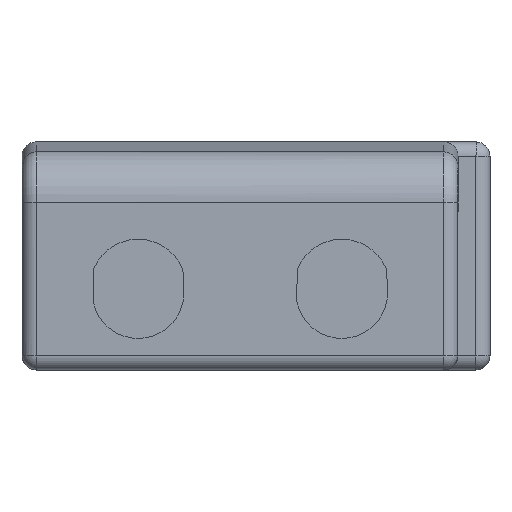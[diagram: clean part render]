
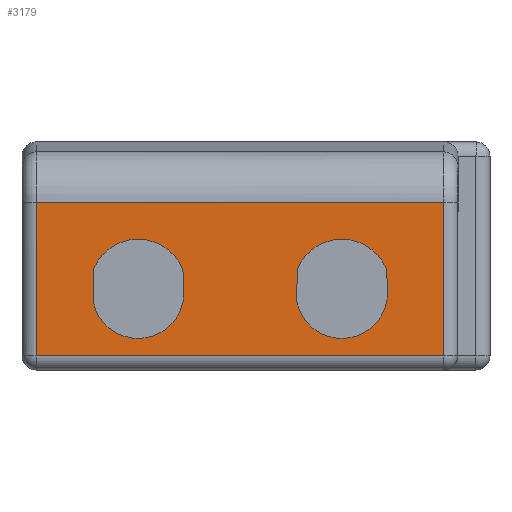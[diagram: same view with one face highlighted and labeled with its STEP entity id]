
A CAD part, left-side view. The second image highlights one B-rep face of the part: STEP entity #3179.
In plain terms, the highlighted planar face has unit normal (-1, 0, 0) as drawn and (0, 0, 1) by its records, which use the part's own axes.
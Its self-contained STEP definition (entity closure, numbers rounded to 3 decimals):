
#514=DIRECTION('',(0.005,1.,0.));
#515=VECTOR('',#514,3.173);
#516=CARTESIAN_POINT('',(14.394,0.119,45.137));
#517=LINE('',#516,#515);
#521=CARTESIAN_POINT('',(10.,2.4,45.137));
#522=DIRECTION('',(0.,0.,1.));
#523=DIRECTION('',(0.98,0.198,0.));
#524=AXIS2_PLACEMENT_3D('',#521,#522,#523);
#529=DIRECTION('',(0.045,-0.999,0.));
#530=VECTOR('',#529,2.362);
#531=CARTESIAN_POINT('',(5.501,2.479,45.137));
#532=LINE('',#531,#530);
#536=DIRECTION('',(0.005,1.,0.));
#537=VECTOR('',#536,3.173);
#538=CARTESIAN_POINT('',(-5.606,0.119,45.137));
#539=LINE('',#538,#537);
#543=CARTESIAN_POINT('',(-10.,2.4,45.137));
#544=DIRECTION('',(0.,0.,1.));
#545=DIRECTION('',(0.98,0.198,0.));
#546=AXIS2_PLACEMENT_3D('',#543,#544,#545);
#551=DIRECTION('',(0.045,-0.999,0.));
#552=VECTOR('',#551,2.362);
#553=CARTESIAN_POINT('',(-14.499,2.479,45.137));
#554=LINE('',#553,#552);
#558=DIRECTION('',(0.,-1.,0.));
#559=VECTOR('',#558,15.029);
#560=CARTESIAN_POINT('',(19.981,8.6,45.137));
#561=LINE('',#560,#559);
#565=DIRECTION('',(1.,0.,0.));
#566=VECTOR('',#565,39.962);
#567=CARTESIAN_POINT('',(-19.981,-6.428,45.137));
#568=LINE('',#567,#566);
#572=DIRECTION('',(0.,1.,0.));
#573=VECTOR('',#572,15.028);
#574=CARTESIAN_POINT('',(-19.981,-6.428,45.137));
#575=LINE('',#574,#573);
#579=DIRECTION('',(1.,0.,0.));
#580=VECTOR('',#579,39.962);
#581=CARTESIAN_POINT('',(-19.981,8.6,45.137));
#582=LINE('',#581,#580);
#586=CARTESIAN_POINT('',(10.,1.906,45.137));
#587=DIRECTION('',(0.,0.,-1.));
#588=DIRECTION('',(0.926,-0.377,0.));
#589=AXIS2_PLACEMENT_3D('',#586,#587,#588);
#652=CARTESIAN_POINT('',(-10.,1.906,45.137));
#653=DIRECTION('',(0.,0.,-1.));
#654=DIRECTION('',(0.926,-0.377,0.));
#655=AXIS2_PLACEMENT_3D('',#652,#653,#654);
#850=CARTESIAN_POINT('',(19.981,-6.429,45.137));
#872=CARTESIAN_POINT('',(-19.981,-6.428,45.137));
#2426=CARTESIAN_POINT('',(14.394,0.119,45.137));
#2427=CARTESIAN_POINT('',(14.411,3.292,45.137));
#2428=VERTEX_POINT('',#2426);
#2429=VERTEX_POINT('',#2427);
#2430=CARTESIAN_POINT('',(5.501,2.479,45.137));
#2431=VERTEX_POINT('',#2430);
#2432=CARTESIAN_POINT('',(5.606,0.119,45.137));
#2433=VERTEX_POINT('',#2432);
#2442=CARTESIAN_POINT('',(-5.606,0.119,
45.137));
#2443=CARTESIAN_POINT('',(-5.589,3.292,45.137));
#2444=VERTEX_POINT('',#2442);
#2445=VERTEX_POINT('',#2443);
#2446=CARTESIAN_POINT('',(-14.499,2.479,45.137));
#2447=VERTEX_POINT('',#2446);
#2448=CARTESIAN_POINT('',(-14.394,0.119,
45.137));
#2449=VERTEX_POINT('',#2448);
#2455=VERTEX_POINT('',#872);
#2464=VERTEX_POINT('',#850);
#2467=CARTESIAN_POINT('',(19.981,8.6,45.137));
#2468=VERTEX_POINT('',#2467);
#2469=CARTESIAN_POINT('',(-19.981,8.6,45.137));
#2470=VERTEX_POINT('',#2469);
#3145=CARTESIAN_POINT('',(-21.38,-15.,45.137));
#3146=DIRECTION('',(0.,0.,-1.));
#3147=DIRECTION('',(1.,0.,0.));
#3148=AXIS2_PLACEMENT_3D('',#3145,#3146,#3147);
#3149=PLANE('',#3148);
#3151=ORIENTED_EDGE('',*,*,#3150,.T.);
#3153=ORIENTED_EDGE('',*,*,#3152,.F.);
#3154=ORIENTED_EDGE('',*,*,#3136,.T.);
#3156=ORIENTED_EDGE('',*,*,#3155,.T.);
#3157=EDGE_LOOP('',(#3151,#3153,#3154,#3156));
#3158=FACE_OUTER_BOUND('',#3157,.F.);
#3160=ORIENTED_EDGE('',*,*,#3159,.F.);
#3162=ORIENTED_EDGE('',*,*,#3161,.T.);
#3164=ORIENTED_EDGE('',*,*,#3163,.T.);
#3166=ORIENTED_EDGE('',*,*,#3165,.T.);
#3167=EDGE_LOOP('',(#3160,#3162,#3164,#3166));
#3168=FACE_BOUND('',#3167,.F.);
#3170=ORIENTED_EDGE('',*,*,#3169,.F.);
#3172=ORIENTED_EDGE('',*,*,#3171,.T.);
#3174=ORIENTED_EDGE('',*,*,#3173,.T.);
#3176=ORIENTED_EDGE('',*,*,#3175,.T.);
#3177=EDGE_LOOP('',(#3170,#3172,#3174,#3176));
#3178=FACE_BOUND('',#3177,.F.);
#525=CIRCLE('',#524,4.5);
#547=CIRCLE('',#546,4.5);
#590=CIRCLE('',#589,4.743);
#656=CIRCLE('',#655,4.743);
#3136=EDGE_CURVE('',#2455,#2470,#575,.T.);
#3150=EDGE_CURVE('',#2468,#2464,#561,.T.);
#3152=EDGE_CURVE('',#2455,#2464,#568,.T.);
#3155=EDGE_CURVE('',#2470,#2468,#582,.T.);
#3159=EDGE_CURVE('',#2444,#2449,#656,.T.);
#3161=EDGE_CURVE('',#2444,#2445,#539,.T.);
#3163=EDGE_CURVE('',#2445,#2447,#547,.T.);
#3165=EDGE_CURVE('',#2447,#2449,#554,.T.);
#3169=EDGE_CURVE('',#2428,#2433,#590,.T.);
#3171=EDGE_CURVE('',#2428,#2429,#517,.T.);
#3173=EDGE_CURVE('',#2429,#2431,#525,.T.);
#3175=EDGE_CURVE('',#2431,#2433,#532,.T.);
#3179=ADVANCED_FACE('',(#3158,#3168,#3178),#3149,.F.);
